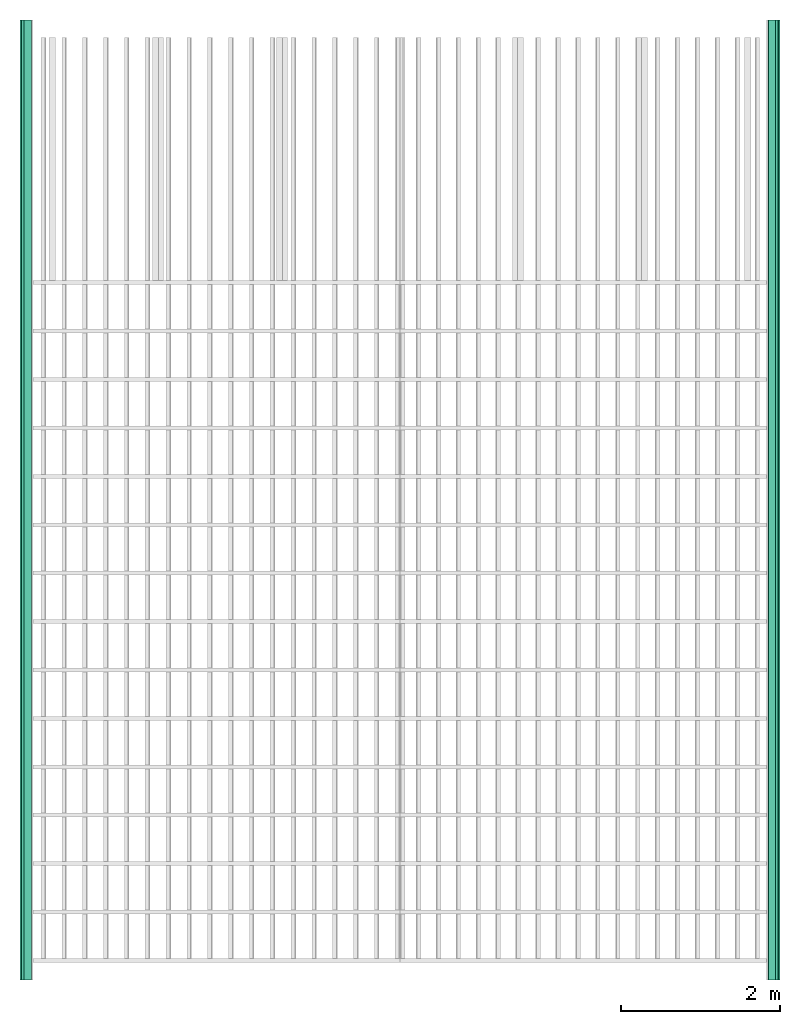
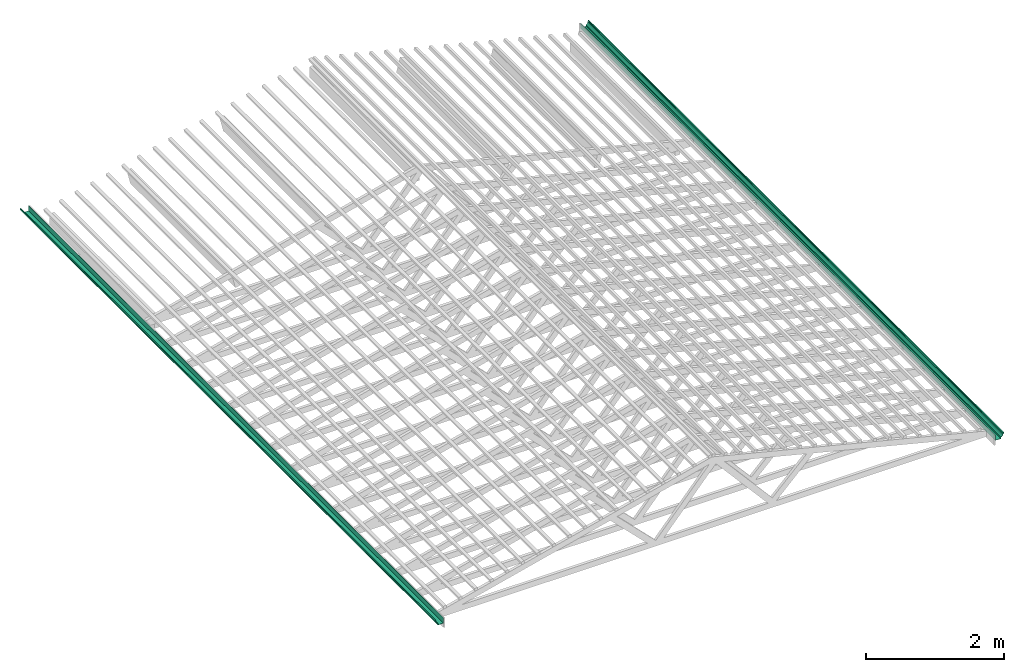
# One storey, part 1 of 4: 1 flow segment.
"""IFC2X3 building model written with IfcOpenShell, lengths in metres."""

from ifc_helpers import new_model, entity, si_unit, converted_unit, derived_unit, direction, frame, frame_2d, origin, place, context, subcontext, project, spatial, polyline, circle_curve, parameter, trimmed, segment, composite_curve, outline, extrude, source, transform, mapped, type_object, type_shapes, element, save


model = new_model("IFC2X3")

# Units and contexts
model_context = context("Model", 3, precision=1e-05, world=origin(), true_north=direction((6.123031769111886e-17, 1.0)))
body_context = subcontext(model_context, "Body", "Model", "MODEL_VIEW")
ifc_project = project(units=[si_unit("LENGTHUNIT", "METRE"), si_unit("AREAUNIT", "SQUARE_METRE"), si_unit("VOLUMEUNIT", "CUBIC_METRE"), converted_unit("PLANEANGLEUNIT", "DEGREE", entity("IfcRatioMeasure", 0.017453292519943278), si_unit("PLANEANGLEUNIT", "RADIAN"), dimensions=[0, 0, 0, 0, 0, 0, 0]), si_unit("MASSUNIT", "GRAM", prefix="KILO"), derived_unit("MASSDENSITYUNIT", [(si_unit("MASSUNIT", "GRAM", prefix="KILO"), 1), (si_unit("LENGTHUNIT", "METRE"), -3)]), derived_unit("IONCONCENTRATIONUNIT", [(si_unit("MASSUNIT", "GRAM", prefix="KILO"), 1), (si_unit("LENGTHUNIT", "METRE"), -3)]), derived_unit("MOMENTOFINERTIAUNIT", [(si_unit("LENGTHUNIT", "METRE"), 4)]), si_unit("TIMEUNIT", "SECOND"), si_unit("FREQUENCYUNIT", "HERTZ"), si_unit("THERMODYNAMICTEMPERATUREUNIT", "DEGREE_CELSIUS"), derived_unit("THERMALTRANSMITTANCEUNIT", [(si_unit("MASSUNIT", "GRAM", prefix="KILO"), 1), (si_unit("THERMODYNAMICTEMPERATUREUNIT", "KELVIN"), -1), (si_unit("TIMEUNIT", "SECOND"), -3)]), derived_unit("THERMALCONDUCTANCEUNIT", [(si_unit("MASSUNIT", "GRAM", prefix="KILO"), 1), (si_unit("THERMODYNAMICTEMPERATUREUNIT", "KELVIN"), -1), (si_unit("TIMEUNIT", "SECOND"), -3), (si_unit("LENGTHUNIT", "METRE"), 1)]), derived_unit("VOLUMETRICFLOWRATEUNIT", [(si_unit("LENGTHUNIT", "METRE"), 3), (si_unit("TIMEUNIT", "SECOND"), -1)]), derived_unit("MASSFLOWRATEUNIT", [(si_unit("MASSUNIT", "GRAM", prefix="KILO"), 1), (si_unit("TIMEUNIT", "SECOND"), -1)]), derived_unit("ROTATIONALFREQUENCYUNIT", [(si_unit("TIMEUNIT", "SECOND"), -1)]), si_unit("ELECTRICCURRENTUNIT", "AMPERE"), si_unit("ELECTRICVOLTAGEUNIT", "VOLT"), si_unit("POWERUNIT", "WATT"), si_unit("FORCEUNIT", "NEWTON", prefix="KILO"), si_unit("ILLUMINANCEUNIT", "LUX"), si_unit("LUMINOUSFLUXUNIT", "LUMEN"), si_unit("LUMINOUSINTENSITYUNIT", "CANDELA"), derived_unit("USERDEFINED", [(si_unit("MASSUNIT", "GRAM", prefix="KILO"), -1), (si_unit("LENGTHUNIT", "METRE"), -2), (si_unit("TIMEUNIT", "SECOND"), 3), (si_unit("LUMINOUSFLUXUNIT", "LUMEN"), 1)]), derived_unit("USERDEFINED", [(si_unit("MASSUNIT", "GRAM", prefix="KILO"), 1), (si_unit("TIMEUNIT", "SECOND"), -3), (si_unit("LENGTHUNIT", "METRE"), 3), (si_unit("ELECTRICCURRENTUNIT", "AMPERE"), -2)]), derived_unit("SOUNDPOWERUNIT", [(si_unit("MASSUNIT", "GRAM", prefix="KILO"), 1), (si_unit("TIMEUNIT", "SECOND"), -3), (si_unit("LENGTHUNIT", "METRE"), 2)]), derived_unit("SOUNDPRESSUREUNIT", [(si_unit("MASSUNIT", "GRAM", prefix="KILO"), 1), (si_unit("LENGTHUNIT", "METRE"), -1), (si_unit("TIMEUNIT", "SECOND"), -2)]), derived_unit("LINEARVELOCITYUNIT", [(si_unit("LENGTHUNIT", "METRE"), 1), (si_unit("TIMEUNIT", "SECOND"), -1)]), si_unit("PRESSUREUNIT", "PASCAL"), derived_unit("USERDEFINED", [(si_unit("MASSUNIT", "GRAM", prefix="KILO"), 1), (si_unit("LENGTHUNIT", "METRE"), -2), (si_unit("TIMEUNIT", "SECOND"), -2)]), derived_unit("LINEARFORCEUNIT", [(si_unit("MASSUNIT", "GRAM", prefix="KILO"), 1), (si_unit("TIMEUNIT", "SECOND"), -2)]), derived_unit("PLANARFORCEUNIT", [(si_unit("MASSUNIT", "GRAM", prefix="KILO"), 1), (si_unit("LENGTHUNIT", "METRE"), -1), (si_unit("TIMEUNIT", "SECOND"), -2)]), derived_unit("SPECIFICHEATCAPACITYUNIT", [(si_unit("THERMODYNAMICTEMPERATUREUNIT", "KELVIN"), -1), (si_unit("LENGTHUNIT", "METRE"), 2), (si_unit("TIMEUNIT", "SECOND"), -2)]), derived_unit("HEATINGVALUEUNIT", [(si_unit("LENGTHUNIT", "METRE"), 2), (si_unit("TIMEUNIT", "SECOND"), -2)]), derived_unit("VAPORPERMEABILITYUNIT", [(si_unit("LENGTHUNIT", "METRE"), -1), (si_unit("TIMEUNIT", "SECOND"), 1)]), derived_unit("DYNAMICVISCOSITYUNIT", [(si_unit("MASSUNIT", "GRAM", prefix="KILO"), 1), (si_unit("TIMEUNIT", "SECOND"), -1), (si_unit("LENGTHUNIT", "METRE"), -1)]), derived_unit("THERMALEXPANSIONCOEFFICIENTUNIT", [(si_unit("THERMODYNAMICTEMPERATUREUNIT", "KELVIN"), -1)]), derived_unit("MODULUSOFELASTICITYUNIT", [(si_unit("MASSUNIT", "GRAM", prefix="KILO"), 1), (si_unit("LENGTHUNIT", "METRE"), -1), (si_unit("TIMEUNIT", "SECOND"), -2)]), derived_unit("ISOTHERMALMOISTURECAPACITYUNIT", [(si_unit("LENGTHUNIT", "METRE"), 3), (si_unit("MASSUNIT", "GRAM", prefix="KILO"), -1)]), derived_unit("MOISTUREDIFFUSIVITYUNIT", [(si_unit("TIMEUNIT", "SECOND"), -1), (si_unit("LENGTHUNIT", "METRE"), 2)])], contexts=[model_context])

# Site, building, storey
site_placement = place(None, frame((1.2553507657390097, -0.6266432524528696, -1.0397761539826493), z_axis=(0.0, 0.0, 1.0), x_axis=(-1.0, 0.0, 0.0)))
site = spatial("IfcSite", under=ifc_project, at=site_placement, Name="Default", CompositionType="ELEMENT")
building_placement = place(site_placement, origin())
building = spatial("IfcBuilding", under=site, at=building_placement, Name="MAISON D'HABITATION", CompositionType="ELEMENT")
storey_placement = place(building_placement, frame((0.0, 0.0, 3.569776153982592)))
storey = spatial("IfcBuildingStorey", under=building, at=storey_placement, Name="Niveau .....", CompositionType="ELEMENT", Elevation=3.569776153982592)

# Flow segment
pipe_segment_type = type_object("IfcPipeSegmentType", Name="Gouttière:Gouttière", PredefinedType="GUTTER")
shared_shape = source(origin(), body_context, "Body", "SweptSolid", [
    extrude(outline(composite_curve([segment(polyline([(-0.09643247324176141, -0.05826149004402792), (0.0017032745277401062, -0.05826149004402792)]), True, "CONTINUOUS"), segment(polyline([(0.0017032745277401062, -0.05826149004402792), (0.0017032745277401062, -0.03451149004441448)]), True, "CONTINUOUS"), segment(trimmed(circle_curve(frame_2d((-0.013672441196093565, 0.009431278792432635), x_axis=(1.0, 0.0)), 0.04655512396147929), [parameter(289.2851054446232)], [parameter(0.0)], True, "PARAMETER"), True, "CONTINUOUS"), segment(polyline([(0.032882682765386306, 0.009431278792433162), (0.032882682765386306, 0.012988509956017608)]), True, "CONTINUOUS"), segment(polyline([(0.032882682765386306, 0.01298850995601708), (0.04943155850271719, 0.01298850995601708)]), True, "CONTINUOUS"), segment(polyline([(0.04943155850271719, 0.01298850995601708), (0.04943155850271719, 0.03673850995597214)]), True, "CONTINUOUS"), segment(polyline([(0.0494315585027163, 0.03673850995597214), (0.03274658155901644, 0.03673850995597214)]), True, "CONTINUOUS"), segment(polyline([(0.03274658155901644, 0.03673850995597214), (0.03274658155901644, 0.03278017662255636)]), True, "CONTINUOUS"), segment(polyline([(0.03274658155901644, 0.03278017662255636), (0.04547322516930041, 0.03278017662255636)]), True, "CONTINUOUS"), segment(polyline([(0.0454732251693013, 0.03278017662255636), (0.0454732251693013, 0.016946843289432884)]), True, "CONTINUOUS"), segment(polyline([(0.04547322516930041, 0.016946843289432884), (0.02892434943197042, 0.016946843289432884)]), True, "CONTINUOUS"), segment(polyline([(0.02892434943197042, 0.01694684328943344), (0.02892434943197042, 0.009431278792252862)]), True, "CONTINUOUS"), segment(trimmed(circle_curve(frame_2d((-0.013672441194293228, 0.009431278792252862), x_axis=(1.0, 0.0)), 0.04259679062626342), [parameter(285.54730374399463)], [parameter(7.124442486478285e-13)], True, "PARAMETER"), False, "CONTINUOUS"), segment(polyline([(-0.0022550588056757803, -0.03160687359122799), (-0.0022550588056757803, -0.05430315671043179)]), True, "CONTINUOUS"), segment(polyline([(-0.002255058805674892, -0.05430315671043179), (-0.09247413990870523, -0.05430315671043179)]), True, "CONTINUOUS"), segment(polyline([(-0.09247413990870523, -0.05430315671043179), (-0.09247413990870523, 0.03673850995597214)]), True, "CONTINUOUS"), segment(polyline([(-0.09247413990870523, 0.03673850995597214), (-0.09643247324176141, 0.03673850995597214)]), True, "CONTINUOUS"), segment(polyline([(-0.09643247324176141, 0.03673850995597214), (-0.09643247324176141, -0.05826149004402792)]), True, "CONTINUOUS")], self_intersect=False)), frame((-4.995299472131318, -8.68381695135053, 0.22480115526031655), z_axis=(0.0, 1.0, 0.0), x_axis=(-1.0, 0.0, 0.0)), (0.0, 0.0, 1.0), 12.040000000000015),
    extrude(outline(composite_curve([segment(polyline([(-0.05826149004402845, -0.09643247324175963), (0.03673850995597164, -0.09643247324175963)]), True, "CONTINUOUS"), segment(polyline([(0.03673850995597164, -0.09643247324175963), (0.03673850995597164, -0.09247413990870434)]), True, "CONTINUOUS"), segment(polyline([(0.03673850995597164, -0.09247413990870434), (-0.05430315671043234, -0.09247413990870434)]), True, "CONTINUOUS"), segment(polyline([(-0.05430315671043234, -0.09247413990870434), (-0.05430315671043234, -0.002255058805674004)]), True, "CONTINUOUS"), segment(polyline([(-0.05430315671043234, -0.002255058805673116), (-0.031606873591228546, -0.002255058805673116)]), True, "CONTINUOUS"), segment(trimmed(circle_curve(frame_2d((0.009431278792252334, -0.013672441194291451), x_axis=(0.0, 1.0)), 0.04259679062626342), [parameter(359.99999999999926)], [parameter(74.45269625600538)], True, "PARAMETER"), False, "CONTINUOUS"), segment(polyline([(0.009431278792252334, 0.028924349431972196), (0.016946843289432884, 0.028924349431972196)]), True, "CONTINUOUS"), segment(polyline([(0.016946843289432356, 0.028924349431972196), (0.016946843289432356, 0.04547322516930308)]), True, "CONTINUOUS"), segment(polyline([(0.016946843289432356, 0.04547322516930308), (0.03278017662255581, 0.04547322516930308)]), True, "CONTINUOUS"), segment(polyline([(0.03278017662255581, 0.04547322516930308), (0.03278017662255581, 0.03274658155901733)]), True, "CONTINUOUS"), segment(polyline([(0.03278017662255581, 0.03274658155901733), (0.03673850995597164, 0.03274658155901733)]), True, "CONTINUOUS"), segment(polyline([(0.03673850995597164, 0.03274658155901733), (0.03673850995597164, 0.049431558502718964)]), True, "CONTINUOUS"), segment(polyline([(0.03673850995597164, 0.049431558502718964), (0.012988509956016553, 0.049431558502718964)]), True, "CONTINUOUS"), segment(polyline([(0.012988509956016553, 0.049431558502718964), (0.012988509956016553, 0.03288268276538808)]), True, "CONTINUOUS"), segment(polyline([(0.01298850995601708, 0.03288268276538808), (0.009431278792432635, 0.03288268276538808)]), True, "CONTINUOUS"), segment(trimmed(circle_curve(frame_2d((0.00943127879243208, -0.013672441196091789), x_axis=(0.0, 1.0)), 0.04655512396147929), [parameter(0.0)], [parameter(70.71489455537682)], True, "PARAMETER"), True, "CONTINUOUS"), segment(polyline([(-0.034511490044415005, 0.0017032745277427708), (-0.05826149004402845, 0.0017032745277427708)]), True, "CONTINUOUS"), segment(polyline([(-0.05826149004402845, 0.0017032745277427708), (-0.05826149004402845, -0.09643247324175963)]), True, "CONTINUOUS")], self_intersect=False)), frame((4.4355654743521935, -8.68381695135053, 0.22480115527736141), z_axis=(0.0, 1.0, 0.0), x_axis=(0.0, 0.0, 1.0)), (0.0, 0.0, 1.0), 12.040000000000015),
])
type_shapes(pipe_segment_type, [shared_shape])
flow_segment_placement = place(storey_placement, origin())
element("IfcFlowSegment", 1, at=flow_segment_placement, inside=storey, type_object=pipe_segment_type, Name="Gouttière:Gouttière", ObjectType="Gouttière:Gouttière", context=body_context, shape_type="MappedRepresentation", body=[
    mapped(shared_shape, transform((0.0, 0.0, 0.0), scale=1.0)),
])

save(model, "model.ifc")
